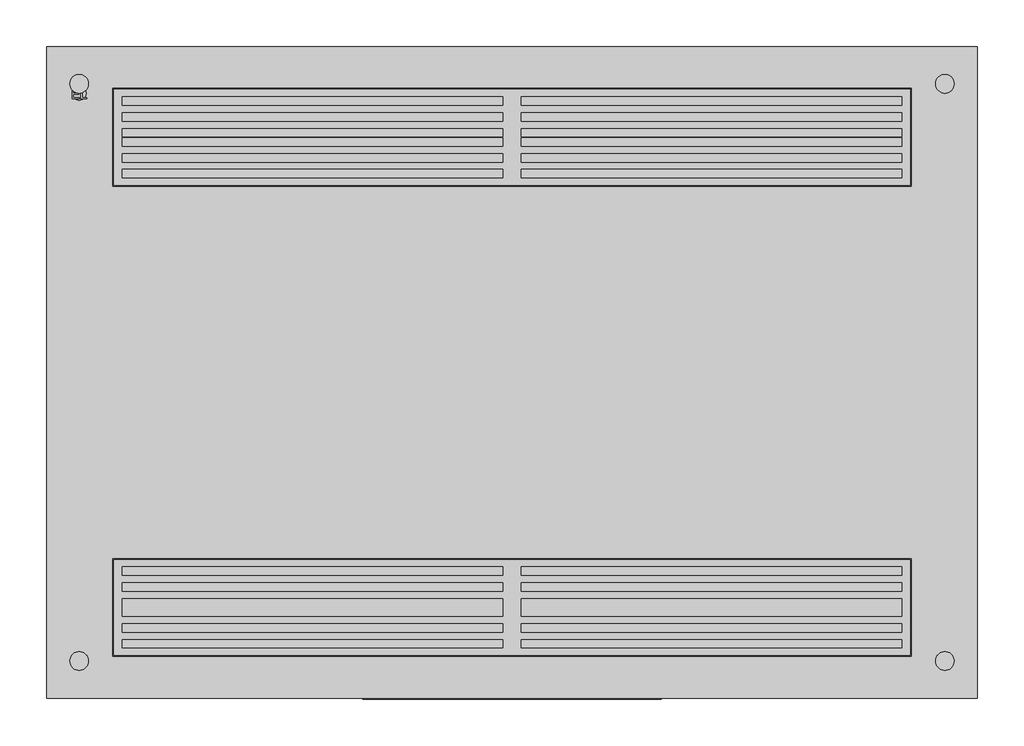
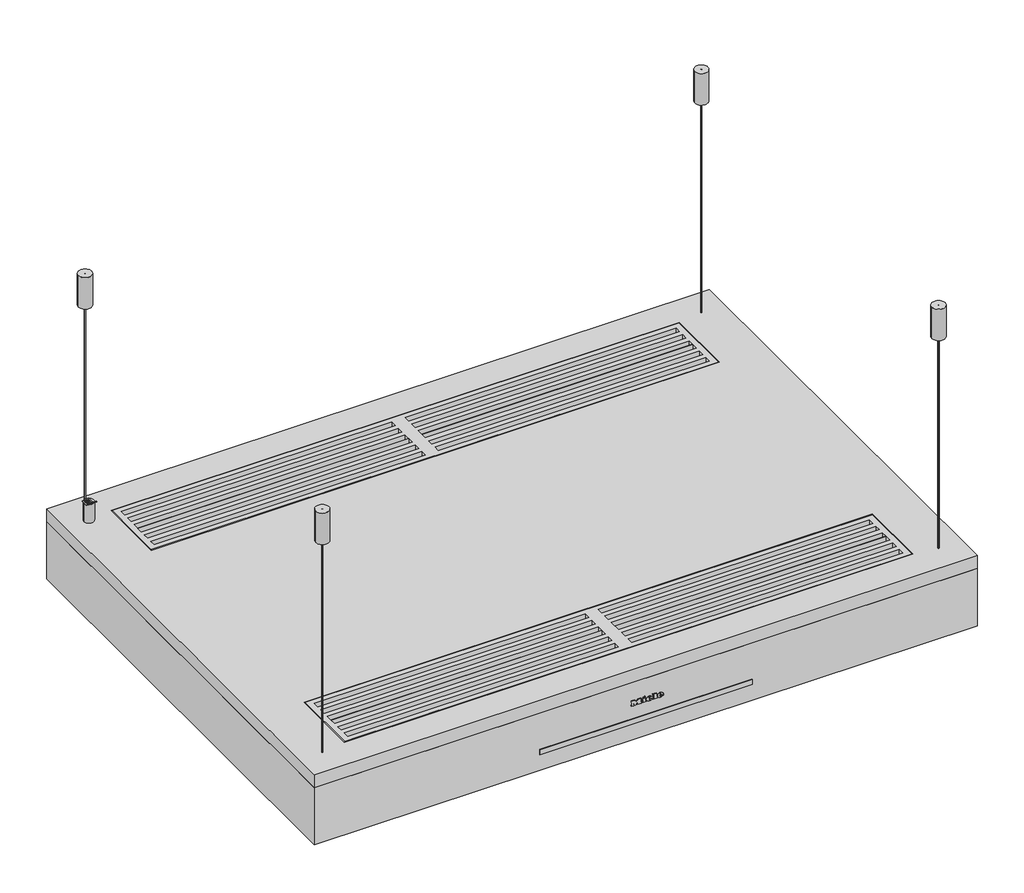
# Not in any storey: 1 proxy.
"""IFC4 building model written with IfcOpenShell, lengths in millimetres."""

from ifc_helpers import new_model, si_unit, origin, place, context, project, spatial, transform, mapped, element, save
from components import specialty_equipment_f2d72708

model = new_model("IFC4")

# Units and contexts
model_context = context("Model", 3, world=origin())
ifc_project = project(units=[si_unit("LENGTHUNIT", "METRE", prefix="MILLI")], contexts=[model_context])

# Site, building
site = spatial("IfcSite", under=ifc_project)
building = spatial("IfcBuilding", under=site)

# Proxy
placement = place(None, origin())
specialty_equipment_shape = specialty_equipment_f2d72708(model_context)
element("IfcBuildingElementProxy", 1, Name="12050630_GB_DA6708D_EDST : 28670856_GB_12050630_DA6708D_EDST", ObjectType="12050630_GB_DA6708D_EDST : 28670856_GB_12050630_DA6708D_EDST", at=placement, inside=building, context=model_context, shape_type="MappedRepresentation", body=[
    mapped(specialty_equipment_shape, transform((0.0, 0.0, 0.0), x_axis=(1.0, 0.0, 0.0), y_axis=(0.0, 1.0, 0.0), z_axis=(0.0, 0.0, 1.0))),
])

save(model, "model.ifc")
